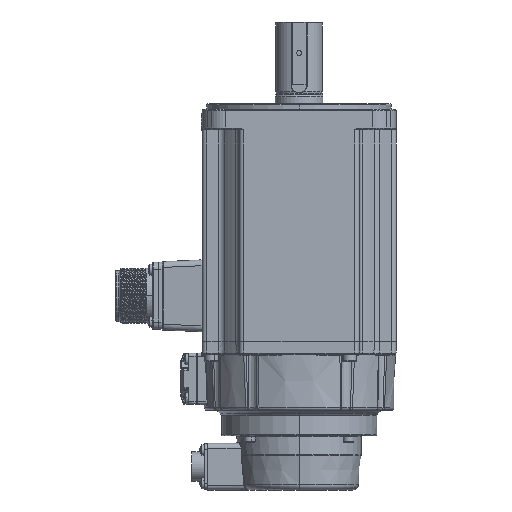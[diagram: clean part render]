
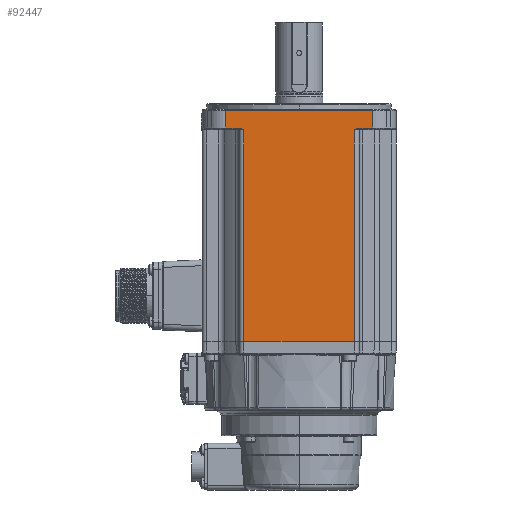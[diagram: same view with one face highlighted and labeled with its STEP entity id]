
A CAD part, left-side view. The second image highlights one B-rep face of the part: STEP entity #92447.
In plain terms, the highlighted planar face has unit normal (-1, 0, 0).
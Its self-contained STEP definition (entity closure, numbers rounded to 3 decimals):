
#366 = DIRECTION ( 'NONE',  ( 0., 0., 1. ) ) ;
#4642 = DIRECTION ( 'NONE',  ( 0., -1., 0. ) ) ;
#4855 = ORIENTED_EDGE ( 'NONE', *, *, #5949, .T. ) ;
#5949 = EDGE_CURVE ( 'NONE', #62104, #112690, #99160, .T. ) ;
#7729 = VECTOR ( 'NONE', #366, 1000. ) ;
#7853 = ORIENTED_EDGE ( 'NONE', *, *, #82565, .T. ) ;
#8124 = VERTEX_POINT ( 'NONE', #47267 ) ;
#9052 = CARTESIAN_POINT ( 'NONE',  ( -50., 28.5, -168.7 ) ) ;
#12344 = CARTESIAN_POINT ( 'NONE',  ( -50., 29.178, -13.12 ) ) ;
#12490 = CARTESIAN_POINT ( 'NONE',  ( -50., -30.315, -12.6 ) ) ;
#14358 = VECTOR ( 'NONE', #4642, 1000. ) ;
#17609 = ORIENTED_EDGE ( 'NONE', *, *, #44750, .T. ) ;
#19255 = DIRECTION ( 'NONE',  ( 0., 0., -1. ) ) ;
#20831 = LINE ( 'NONE', #56452, #47586 ) ;
#21093 = VERTEX_POINT ( 'NONE', #56082 ) ;
#21236 = CARTESIAN_POINT ( 'NONE',  ( -50., -29.912, -12.743 ) ) ;
#21532 = CARTESIAN_POINT ( 'NONE',  ( -50., -42., -12.6 ) ) ;
#23349 = CARTESIAN_POINT ( 'NONE',  ( -50., -42., -310.121 ) ) ;
#23429 = VECTOR ( 'NONE', #66944, 1000. ) ;
#26379 = DIRECTION ( 'NONE',  ( 0., 1., 0. ) ) ;
#27253 = ORIENTED_EDGE ( 'NONE', *, *, #112739, .T. ) ;
#27799 = VERTEX_POINT ( 'NONE', #108929 ) ;
#29031 = CARTESIAN_POINT ( 'NONE',  ( -50., -30.736, -12.6 ) ) ;
#29162 = CARTESIAN_POINT ( 'NONE',  ( -50., 37.858, -3.5 ) ) ;
#31061 = VECTOR ( 'NONE', #77125, 1000. ) ;
#34576 = CARTESIAN_POINT ( 'NONE',  ( -50., 28.5, -13.6 ) ) ;
#38432 = CARTESIAN_POINT ( 'NONE',  ( -50., -37.858, -310.121 ) ) ;
#38783 = VECTOR ( 'NONE', #26379, 1000. ) ;
#39804 = CARTESIAN_POINT ( 'NONE',  ( -50., 30.736, -12.6 ) ) ;
#40188 = ORIENTED_EDGE ( 'NONE', *, *, #85246, .F. ) ;
#40328 = PLANE ( 'NONE',  #42293 ) ;
#42293 = AXIS2_PLACEMENT_3D ( 'NONE', #23349, #49034, #58969 ) ;
#43481 = EDGE_CURVE ( 'NONE', #61631, #21093, #20831, .T. ) ;
#44750 = EDGE_CURVE ( 'NONE', #101909, #62104, #96389, .T. ) ;
#47229 = B_SPLINE_CURVE_WITH_KNOTS ( 'NONE', 3,
 ( #39804, #74785, #65449, #12344, #110884, #110306 ),
 .UNSPECIFIED., .F., .F.,
 ( 4, 2, 4 ),
 ( 0., 0.001, 0.002 ),
 .UNSPECIFIED. ) ;
#47267 = CARTESIAN_POINT ( 'NONE',  ( -50., -37.858, -12.6 ) ) ;
#47586 = VECTOR ( 'NONE', #98593, 1000. ) ;
#49034 = DIRECTION ( 'NONE',  ( -1., 0., 0. ) ) ;
#56082 = CARTESIAN_POINT ( 'NONE',  ( -50., -28.5, -122.5 ) ) ;
#56452 = CARTESIAN_POINT ( 'NONE',  ( -50., -42., -122.5 ) ) ;
#56695 = CARTESIAN_POINT ( 'NONE',  ( -50., -28.5, -13.6 ) ) ;
#58969 = DIRECTION ( 'NONE',  ( 0., -1., 0. ) ) ;
#61631 = VERTEX_POINT ( 'NONE', #69625 ) ;
#62104 = VERTEX_POINT ( 'NONE', #29162 ) ;
#63420 = ORIENTED_EDGE ( 'NONE', *, *, #79545, .T. ) ;
#65449 = CARTESIAN_POINT ( 'NONE',  ( -50., 29.912, -12.743 ) ) ;
#65597 = CARTESIAN_POINT ( 'NONE',  ( -50., -28.839, -13.36 ) ) ;
#66140 = ORIENTED_EDGE ( 'NONE', *, *, #115062, .T. ) ;
#66944 = DIRECTION ( 'NONE',  ( 0., 0., 1. ) ) ;
#67604 = LINE ( 'NONE', #21532, #14358 ) ;
#69029 = CARTESIAN_POINT ( 'NONE',  ( -50., -42., -12.6 ) ) ;
#69625 = CARTESIAN_POINT ( 'NONE',  ( -50., 28.5, -122.5 ) ) ;
#72696 = VERTEX_POINT ( 'NONE', #56695 ) ;
#72915 = CARTESIAN_POINT ( 'NONE',  ( -50., 37.858, -310.121 ) ) ;
#74106 = CARTESIAN_POINT ( 'NONE',  ( -50., -37.858, -3.5 ) ) ;
#74558 = LINE ( 'NONE', #38432, #23429 ) ;
#74785 = CARTESIAN_POINT ( 'NONE',  ( -50., 30.315, -12.6 ) ) ;
#75837 = VERTEX_POINT ( 'NONE', #29031 ) ;
#77125 = DIRECTION ( 'NONE',  ( 0., 0., 1. ) ) ;
#77357 = ORIENTED_EDGE ( 'NONE', *, *, #43481, .T. ) ;
#79403 = EDGE_LOOP ( 'NONE', ( #40188, #77357, #86520, #27253, #63420, #98680, #17609, #4855, #66140, #7853 ) ) ;
#79545 = EDGE_CURVE ( 'NONE', #75837, #8124, #95841, .T. ) ;
#80242 = LINE ( 'NONE', #9052, #7729 ) ;
#82565 = EDGE_CURVE ( 'NONE', #27799, #111231, #47229, .T. ) ;
#83682 = CARTESIAN_POINT ( 'NONE',  ( -50., 37.858, -12.6 ) ) ;
#84275 = CARTESIAN_POINT ( 'NONE',  ( -50., -30.736, -12.6 ) ) ;
#85246 = EDGE_CURVE ( 'NONE', #61631, #111231, #80242, .T. ) ;
#86520 = ORIENTED_EDGE ( 'NONE', *, *, #101829, .T. ) ;
#88739 = LINE ( 'NONE', #105082, #31061 ) ;
#90718 = CARTESIAN_POINT ( 'NONE',  ( -50., -29.178, -13.12 ) ) ;
#92447 = ADVANCED_FACE ( 'NONE', ( #103300 ), #40328, .T. ) ;
#95841 = LINE ( 'NONE', #69029, #109154 ) ;
#96389 = LINE ( 'NONE', #106280, #38783 ) ;
#98593 = DIRECTION ( 'NONE',  ( 0., -1., 0. ) ) ;
#98680 = ORIENTED_EDGE ( 'NONE', *, *, #110207, .T. ) ;
#99160 = LINE ( 'NONE', #72915, #109456 ) ;
#101170 = CARTESIAN_POINT ( 'NONE',  ( -50., -28.5, -13.6 ) ) ;
#101829 = EDGE_CURVE ( 'NONE', #21093, #72696, #88739, .T. ) ;
#101909 = VERTEX_POINT ( 'NONE', #74106 ) ;
#103300 = FACE_OUTER_BOUND ( 'NONE', #79403, .T. ) ;
#104945 = B_SPLINE_CURVE_WITH_KNOTS ( 'NONE', 3,
 ( #101170, #65597, #90718, #21236, #12490, #84275 ),
 .UNSPECIFIED., .F., .F.,
 ( 4, 2, 4 ),
 ( 0., 0.001, 0.002 ),
 .UNSPECIFIED. ) ;
#105082 = CARTESIAN_POINT ( 'NONE',  ( -50., -28.5, -168.7 ) ) ;
#105181 = DIRECTION ( 'NONE',  ( 0., -1., 0. ) ) ;
#106280 = CARTESIAN_POINT ( 'NONE',  ( -50., 37.858, -3.5 ) ) ;
#108929 = CARTESIAN_POINT ( 'NONE',  ( -50., 30.736, -12.6 ) ) ;
#109154 = VECTOR ( 'NONE', #105181, 1000. ) ;
#109456 = VECTOR ( 'NONE', #19255, 1000. ) ;
#110207 = EDGE_CURVE ( 'NONE', #8124, #101909, #74558, .T. ) ;
#110306 = CARTESIAN_POINT ( 'NONE',  ( -50., 28.5, -13.6 ) ) ;
#110884 = CARTESIAN_POINT ( 'NONE',  ( -50., 28.839, -13.36 ) ) ;
#111231 = VERTEX_POINT ( 'NONE', #34576 ) ;
#112690 = VERTEX_POINT ( 'NONE', #83682 ) ;
#112739 = EDGE_CURVE ( 'NONE', #72696, #75837, #104945, .T. ) ;
#115062 = EDGE_CURVE ( 'NONE', #112690, #27799, #67604, .T. ) ;
